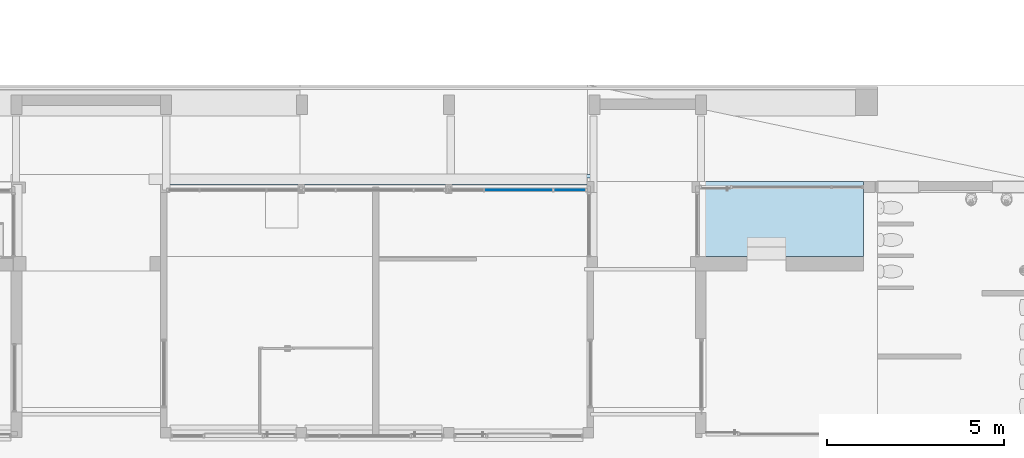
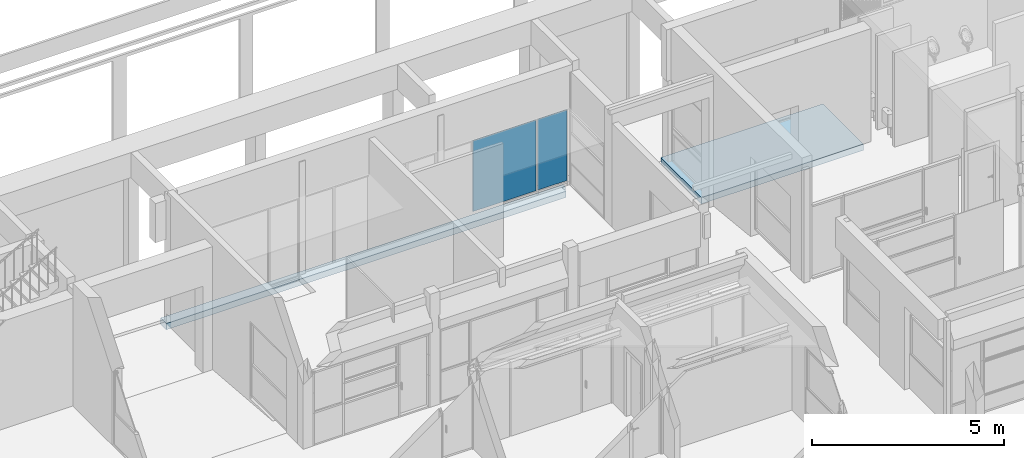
# One storey, part 43 of 117: 2 plates, 1 slab, 1 element without a shape of its own.
"""IFC4 building model written with IfcOpenShell, lengths in metres."""

import ifcopenshell
import ifcopenshell.guid

model = None  # the IFC model being written
_history = None  # IfcOwnerHistory: only IFC2X3 demands one
_inside = {}  # id of a spatial element -> (the spatial element, [elements in it])
_under = {}  # id of a project, library or spatial element -> (it, [spatial elements below it])
_declared = {}  # id of a project -> (the project, [libraries it declares])
_typed = {}  # id of a type object -> (the type object, [elements of that type])
_made_of = {}  # id of a material, layer set ... -> (it, [elements and type objects made of it])


def new_model(schema):
    """Start an empty IFC model of exactly this schema.

    Asked for "IFC4X3", IfcOpenShell would pick the latest addendum, in which some entities
    have other attributes; the version numbers below select the first issue.
    IFC2X3 requires an IfcOwnerHistory on every rooted entity: one is made here for all.
    """
    global model, _history
    if schema == "IFC4X3":
        model = ifcopenshell.file(schema_version=(4, 3, 0, 0))
    else:
        model = ifcopenshell.file(schema=schema)
    _inside.clear()
    _under.clear()
    _declared.clear()
    _typed.clear()
    _made_of.clear()
    _history = None
    if model.schema == "IFC2X3":
        org = make("IfcOrganization", Name="unknown")
        user = make(
            "IfcPersonAndOrganization",
            ThePerson=make("IfcPerson", FamilyName="unknown"),
            TheOrganization=org,
        )
        app = make(
            "IfcApplication",
            ApplicationDeveloper=org,
            Version="unknown",
            ApplicationFullName="unknown",
            ApplicationIdentifier="unknown",
        )
        _history = make(
            "IfcOwnerHistory",
            OwningUser=user,
            OwningApplication=app,
            ChangeAction="ADDED",
            CreationDate=0,
        )
    return model


def make(cls, **values):
    """One entity of the class cls with the attributes given. An attribute that is None is left unset."""
    return model.create_entity(
        cls, **{name: value for name, value in values.items() if value is not None}
    )


def entity(cls, *values):
    """Any entity or typed value of the class cls, its attributes in the order of the schema. None: left unset."""
    e = model.create_entity(cls)
    for i, value in enumerate(values):
        if value is not None:
            e[i] = value
    return e


def rooted(cls, **values):
    """An entity with a GlobalId (a new one), such as an element, a storey or a relation."""
    return make(cls, GlobalId=ifcopenshell.guid.new(), OwnerHistory=_history, **values)


def si_unit(unit_type, name, prefix=None):
    """IfcSIUnit, for example si_unit("LENGTHUNIT", "METRE", prefix="MILLI")."""
    return make("IfcSIUnit", UnitType=unit_type, Prefix=prefix, Name=name)


def converted_unit(unit_type, name, factor, base, dimensions=None, offset=None):
    """IfcConversionBasedUnit, such as the inch: factor (a typed value) times the base unit."""
    return make(
        "IfcConversionBasedUnit"
        if offset is None
        else "IfcConversionBasedUnitWithOffset",
        ConversionOffset=offset,
        Dimensions=None
        if dimensions is None
        else entity("IfcDimensionalExponents", *dimensions),
        UnitType=unit_type,
        Name=name,
        ConversionFactor=make(
            "IfcMeasureWithUnit", ValueComponent=factor, UnitComponent=base
        ),
    )


def derived_unit(unit_type, elements):
    """IfcDerivedUnit: a product of units, each with its exponent."""
    return make(
        "IfcDerivedUnit",
        Elements=[
            make("IfcDerivedUnitElement", Unit=unit, Exponent=power)
            for unit, power in elements
        ],
        UnitType=unit_type,
    )


def assignment(units):
    """IfcUnitAssignment: the units of a project."""
    return None if units is None else make("IfcUnitAssignment", Units=units)


def point(xyz):
    """IfcCartesianPoint."""
    return None if xyz is None else make("IfcCartesianPoint", Coordinates=xyz)


def direction(xyz):
    """IfcDirection."""
    return None if xyz is None else make("IfcDirection", DirectionRatios=xyz)


def frame(location, z_axis=None, x_axis=None):
    """IfcAxis2Placement3D, a coordinate frame: its origin and axes. An axis left out is left unset."""
    return make(
        "IfcAxis2Placement3D",
        Location=point(location),
        Axis=direction(z_axis),
        RefDirection=direction(x_axis),
    )


def origin():
    """The frame at (0, 0, 0) with its axes left unset."""
    return frame((0.0, 0.0, 0.0))


def place(relative_to, where):
    """IfcLocalPlacement: puts the frame where relative to a parent placement (None: the world)."""
    return make(
        "IfcLocalPlacement", PlacementRelTo=relative_to, RelativePlacement=where
    )


def context(
    kind, dimensions, precision=None, world=None, true_north=None, identifier=None
):
    """IfcGeometricRepresentationContext, for example the 3D "Model" context."""
    return make(
        "IfcGeometricRepresentationContext",
        ContextIdentifier=identifier,
        ContextType=kind,
        CoordinateSpaceDimension=dimensions,
        Precision=precision,
        WorldCoordinateSystem=world,
        TrueNorth=true_north,
    )


def subcontext(parent, identifier, kind, view, scale=None):
    """IfcGeometricRepresentationSubContext, for example "Body" below "Model"."""
    return make(
        "IfcGeometricRepresentationSubContext",
        ContextIdentifier=identifier,
        ContextType=kind,
        ParentContext=parent,
        TargetScale=scale,
        TargetView=view,
    )


def project(units=None, contexts=None):
    """IfcProject with its units and contexts."""
    return rooted(
        "IfcProject",
        Name="project",
        RepresentationContexts=contexts,
        UnitsInContext=assignment(units),
    )


def spatial(cls, under=None, at=None, **own):
    """A site, building, storey or space (cls), placed at a placement, below another one or the project."""
    s = rooted(cls, ObjectPlacement=at, **own)
    if under is not None:
        _under.setdefault(under.id(), (under, []))[1].append(s)
    return s


def point_list(points):
    """IfcCartesianPointList2D or 3D."""
    cls = (
        "IfcCartesianPointList2D" if len(points[0]) == 2 else "IfcCartesianPointList3D"
    )
    return make(cls, CoordList=points)


def indexed_curve(points, segments=None, self_intersect=None):
    """IfcIndexedPolyCurve: lines and arcs through numbered points (the first is 1)."""
    return make(
        "IfcIndexedPolyCurve",
        Points=point_list(points),
        Segments=segments,
        SelfIntersect=self_intersect,
    )


def outline(outer, holes=None, kind="AREA"):
    """IfcArbitraryClosedProfileDef: a profile drawn as a closed curve; with holes, ...WithVoids."""
    if holes is None:
        return make("IfcArbitraryClosedProfileDef", ProfileType=kind, OuterCurve=outer)
    return make(
        "IfcArbitraryProfileDefWithVoids",
        ProfileType=kind,
        OuterCurve=outer,
        InnerCurves=holes,
    )


def extrude(swept, where, along, depth):
    """IfcExtrudedAreaSolid: the profile swept, set in the frame where, extruded along a direction by depth."""
    return make(
        "IfcExtrudedAreaSolid",
        SweptArea=swept,
        Position=where,
        ExtrudedDirection=direction(along),
        Depth=depth,
    )


def shape(context_of_items, identifier, shape_type, items):
    """IfcShapeRepresentation: the items that make up one representation, for example the "Body"."""
    return make(
        "IfcShapeRepresentation",
        ContextOfItems=context_of_items,
        RepresentationIdentifier=identifier,
        RepresentationType=shape_type,
        Items=items,
    )


def source(mapping_origin, context_of_items, identifier, shape_type, items):
    """IfcRepresentationMap: a shape defined once, which mapped items show again and again."""
    return make(
        "IfcRepresentationMap",
        MappingOrigin=mapping_origin,
        MappedRepresentation=shape(context_of_items, identifier, shape_type, items),
    )


def transform(
    local_origin,
    x_axis=None,
    y_axis=None,
    z_axis=None,
    scale=None,
    scale2=None,
    scale3=None,
    uniform=True,
):
    """IfcCartesianTransformationOperator3D, or its non-uniform kind. x_axis, y_axis, z_axis: its Axis1, 2, 3."""
    if uniform:
        return make(
            "IfcCartesianTransformationOperator3D",
            Axis1=direction(x_axis),
            Axis2=direction(y_axis),
            LocalOrigin=point(local_origin),
            Scale=scale,
            Axis3=direction(z_axis),
        )
    return make(
        "IfcCartesianTransformationOperator3DnonUniform",
        Axis1=direction(x_axis),
        Axis2=direction(y_axis),
        LocalOrigin=point(local_origin),
        Scale=scale,
        Axis3=direction(z_axis),
        Scale2=scale2,
        Scale3=scale3,
    )


def mapped(mapping_source, mapping_target):
    """IfcMappedItem: shows the shape of a source again, moved by a transform."""
    return make(
        "IfcMappedItem", MappingSource=mapping_source, MappingTarget=mapping_target
    )


def material(Name=None, Category=None):
    """IfcMaterial."""
    return make("IfcMaterial", Name=Name, Category=Category)


def made_of(thing, what):
    """Note that an element or type object is made of a material, layer set ...; save() writes the relation."""
    if what is not None:
        _made_of.setdefault(what.id(), (what, []))[1].append(thing)
    return thing


def type_object(cls, material=None, **own):
    """A type object (cls), such as IfcWallType, which elements share."""
    return made_of(rooted(cls, **own), material)


def type_shapes(of_type, sources):
    """Give a type object the sources (RepresentationMaps) that its elements show as mapped items."""
    of_type.RepresentationMaps = sources


def element(
    cls,
    number,
    at=None,
    inside=None,
    cuts=None,
    type_object=None,
    material=None,
    context=None,
    identifier="Body",
    shape_type=None,
    held_by="IfcProductDefinitionShape",
    body=None,
    shapes=None,
    **own,
):
    """One element of the class cls, such as IfcWall. Its Tag is "e" and its number.

    at: its placement. inside: the storey or other place that contains it. cuts: it is an
    opening in that element (IfcRelVoidsElement). A single representation is given by context,
    identifier, shape_type and body (its items); several are given by shapes. held_by: the class
    of the entity that holds the representations. save() writes the other relations.
    """
    e = rooted(cls, Tag="e%d" % number, ObjectPlacement=at, **own)
    if body is not None:
        shapes = [shape(context, identifier, shape_type, body)]
    if shapes is not None:
        e.Representation = make(held_by, Representations=shapes)
    if inside is not None:
        _inside.setdefault(inside.id(), (inside, []))[1].append(e)
    if cuts is not None:
        rooted(
            "IfcRelVoidsElement", RelatingBuildingElement=cuts, RelatedOpeningElement=e
        )
    if type_object is not None:
        _typed.setdefault(type_object.id(), (type_object, []))[1].append(e)
    return made_of(e, material)


def aggregate(whole, parts):
    """IfcRelAggregates: a whole, such as a stair, and the parts it consists of."""
    return rooted("IfcRelAggregates", RelatingObject=whole, RelatedObjects=parts)


def save(model, path):
    """Write the relations noted so far, then the file.

    IfcRelAggregates (storeys below a building ...), IfcRelContainedInSpatialStructure (elements
    in a storey), IfcRelDefinesByType, IfcRelAssociatesMaterial and IfcRelDeclares: one each for
    every whole, place, type object, material and project.
    """
    for whole, parts in _under.values():
        aggregate(whole, parts)
    for where, things in _inside.values():
        rooted(
            "IfcRelContainedInSpatialStructure",
            RelatedElements=things,
            RelatingStructure=where,
        )
    for kind, things in _typed.values():
        rooted("IfcRelDefinesByType", RelatedObjects=things, RelatingType=kind)
    for what, things in _made_of.values():
        rooted("IfcRelAssociatesMaterial", RelatedObjects=things, RelatingMaterial=what)
    for by, libraries in _declared.values():
        rooted("IfcRelDeclares", RelatingContext=by, RelatedDefinitions=libraries)
    model.write(path)


model = new_model("IFC4")

# Units and contexts
model_context = context("Model", 3, precision=1e-05, world=origin(), true_north=direction((6.123031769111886e-17, 1.0)))
body_context = subcontext(model_context, "Body", "Model", "MODEL_VIEW")
ifc_project = project(units=[si_unit("LENGTHUNIT", "METRE"), si_unit("AREAUNIT", "SQUARE_METRE"), si_unit("VOLUMEUNIT", "CUBIC_METRE"), converted_unit("PLANEANGLEUNIT", "DEGREE", entity("IfcRatioMeasure", 0.017453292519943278), si_unit("PLANEANGLEUNIT", "RADIAN"), dimensions=[0, 0, 0, 0, 0, 0, 0]), si_unit("MASSUNIT", "GRAM", prefix="KILO"), derived_unit("MASSDENSITYUNIT", [(si_unit("MASSUNIT", "GRAM", prefix="KILO"), 1), (si_unit("LENGTHUNIT", "METRE"), -3)]), derived_unit("MOMENTOFINERTIAUNIT", [(si_unit("LENGTHUNIT", "METRE"), 4)]), si_unit("TIMEUNIT", "SECOND"), si_unit("FREQUENCYUNIT", "HERTZ"), si_unit("THERMODYNAMICTEMPERATUREUNIT", "DEGREE_CELSIUS"), derived_unit("THERMALTRANSMITTANCEUNIT", [(si_unit("MASSUNIT", "GRAM", prefix="KILO"), 1), (si_unit("THERMODYNAMICTEMPERATUREUNIT", "KELVIN"), -1), (si_unit("TIMEUNIT", "SECOND"), -3)]), derived_unit("VOLUMETRICFLOWRATEUNIT", [(si_unit("LENGTHUNIT", "METRE"), 3), (si_unit("TIMEUNIT", "SECOND"), -1)]), derived_unit("MASSFLOWRATEUNIT", [(si_unit("MASSUNIT", "GRAM", prefix="KILO"), 1), (si_unit("TIMEUNIT", "SECOND"), -1)]), derived_unit("ROTATIONALFREQUENCYUNIT", [(si_unit("TIMEUNIT", "SECOND"), -1)]), si_unit("ELECTRICCURRENTUNIT", "AMPERE"), si_unit("ELECTRICVOLTAGEUNIT", "VOLT"), si_unit("POWERUNIT", "WATT"), si_unit("FORCEUNIT", "NEWTON", prefix="KILO"), si_unit("ILLUMINANCEUNIT", "LUX"), si_unit("LUMINOUSFLUXUNIT", "LUMEN"), si_unit("LUMINOUSINTENSITYUNIT", "CANDELA"), derived_unit("USERDEFINED", [(si_unit("MASSUNIT", "GRAM", prefix="KILO"), -1), (si_unit("LENGTHUNIT", "METRE"), -2), (si_unit("TIMEUNIT", "SECOND"), 3), (si_unit("LUMINOUSFLUXUNIT", "LUMEN"), 1)]), derived_unit("SOUNDPOWERUNIT", [(si_unit("MASSUNIT", "GRAM", prefix="KILO"), 1), (si_unit("LENGTHUNIT", "METRE"), 2), (si_unit("TIMEUNIT", "SECOND"), -3)]), derived_unit("SOUNDPRESSUREUNIT", [(si_unit("MASSUNIT", "GRAM", prefix="KILO"), 1), (si_unit("LENGTHUNIT", "METRE"), -1), (si_unit("TIMEUNIT", "SECOND"), -2)]), derived_unit("LINEARVELOCITYUNIT", [(si_unit("LENGTHUNIT", "METRE"), 1), (si_unit("TIMEUNIT", "SECOND"), -1)]), si_unit("PRESSUREUNIT", "PASCAL"), derived_unit("USERDEFINED", [(si_unit("LENGTHUNIT", "METRE"), -2), (si_unit("MASSUNIT", "GRAM", prefix="KILO"), 1), (si_unit("TIMEUNIT", "SECOND"), -2)]), derived_unit("LINEARFORCEUNIT", [(si_unit("MASSUNIT", "GRAM", prefix="KILO"), 1), (si_unit("LENGTHUNIT", "METRE"), 1), (si_unit("TIMEUNIT", "SECOND"), -2), (si_unit("LENGTHUNIT", "METRE"), -1)]), derived_unit("PLANARFORCEUNIT", [(si_unit("MASSUNIT", "GRAM", prefix="KILO"), 1), (si_unit("LENGTHUNIT", "METRE"), 1), (si_unit("TIMEUNIT", "SECOND"), -2), (si_unit("LENGTHUNIT", "METRE"), -2)])], contexts=[model_context])

# Site, building, storey
site_placement = place(None, origin())
site = spatial("IfcSite", under=ifc_project, at=site_placement, Name="Superficie", CompositionType="ELEMENT")
building_placement = place(site_placement, origin())
building = spatial("IfcBuilding", under=site, at=building_placement, CompositionType="ELEMENT")
storey_placement = place(building_placement, origin())
storey = spatial("IfcBuildingStorey", under=building, at=storey_placement, Name="Nivel 0", CompositionType="ELEMENT", Elevation=0.0)

# Curtain wall, plates
curtain_wall_type = type_object("IfcCurtainWallType", Name="Muro cortina:Muro cortina - simple", PredefinedType="NOTDEFINED")
curtain_wall_placement = place(storey_placement, origin())
curtain_wall = element("IfcCurtainWall", 1, at=curtain_wall_placement, inside=storey, type_object=curtain_wall_type, Name="Muro cortina:Muro cortina - simple", ObjectType="Muro cortina:Muro cortina - simple", PredefinedType="NOTDEFINED")
ifc_material_1 = material(Name="Cristal", Category="Vidrio")
plate_type_1 = type_object("IfcPlateType", Name="Panel de sistema:Acristalado", PredefinedType="CURTAIN_PANEL", material=ifc_material_1)
shared_shape_1 = source(origin(), body_context, "Body", "SweptSolid", [
    extrude(outline(indexed_curve([(-0.8119020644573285, -0.4399999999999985), (-0.6369020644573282, -0.4399999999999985), (1.4488041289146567, -0.4399999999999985), (1.4488041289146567, 0.4399999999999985), (-0.6369020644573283, 0.4399999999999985), (-0.8119020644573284, 0.4399999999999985), (-0.8119020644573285, -0.4399999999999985)], self_intersect=False)), frame((0.0, -0.01, 0.8119020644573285), z_axis=(0.0, 1.0, 0.0), x_axis=(0.0, 0.0, 1.0)), (0.0, 0.0, 1.0), 0.02),
])
type_shapes(plate_type_1, [shared_shape_1])
plate_1_placement = place(curtain_wall_placement, frame((12.30056831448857, 12.654548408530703, 0.129293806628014), z_axis=(0.0, 0.0, 1.0), x_axis=(-1.0, 0.0, 0.0)))
plate_1 = element("IfcPlate", 2, at=plate_1_placement, type_object=plate_type_1, material=ifc_material_1, Name="Panel de sistema:Acristalado", ObjectType="Panel de sistema:Acristalado", PredefinedType="CURTAIN_PANEL", context=body_context, shape_type="MappedRepresentation", body=[
    mapped(shared_shape_1, transform((0.0, 0.0, 0.0), scale=1.0)),
])
plate_type_2 = type_object("IfcPlateType", Name="Panel de sistema:Acristalado", PredefinedType="CURTAIN_PANEL", material=ifc_material_1)
shared_shape_2 = source(origin(), body_context, "Body", "SweptSolid", [
    extrude(outline(indexed_curve([(-0.8119020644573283, -0.952008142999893), (-0.6369020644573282, -0.952008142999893), (1.4488041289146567, -0.952008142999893), (1.4488041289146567, 0.952008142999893), (-0.6369020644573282, 0.952008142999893), (-0.8119020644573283, 0.952008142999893), (-0.8119020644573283, -0.952008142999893)], self_intersect=False)), frame((0.0, -0.01, 0.8119020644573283), z_axis=(0.0, 1.0, 0.0), x_axis=(0.0, 0.0, 1.0)), (0.0, 0.0, 1.0), 0.02),
])
type_shapes(plate_type_2, [shared_shape_2])
plate_2_placement = place(curtain_wall_placement, frame((10.858560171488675, 12.654548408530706, 0.129293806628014), z_axis=(0.0, 0.0, 1.0), x_axis=(-1.0, 0.0, 0.0)))
plate_2 = element("IfcPlate", 3, at=plate_2_placement, type_object=plate_type_2, material=ifc_material_1, Name="Panel de sistema:Acristalado", ObjectType="Panel de sistema:Acristalado", PredefinedType="CURTAIN_PANEL", context=body_context, shape_type="MappedRepresentation", body=[
    mapped(shared_shape_2, transform((0.0, 0.0, 0.0), scale=1.0)),
])
aggregate(curtain_wall, [plate_1, plate_2])

# Slab
ifc_material_2 = material(Name="Suelos por defecto", Category="Genérico")
slab_type = type_object("IfcSlabType", Name="Suelo:Por defecto - 20 cm 2", PredefinedType="FLOOR", material=ifc_material_2)
slab_placement = place(storey_placement, origin())
element("IfcSlab", 4, at=slab_placement, inside=storey, type_object=slab_type, material=ifc_material_2, Name="Suelo:Por defecto - 20 cm 2", ObjectType="Suelo:Por defecto - 20 cm 2", PredefinedType="FLOOR", context=body_context, shape_type="SweptSolid", body=[
    extrude(outline(indexed_curve([(-8.487899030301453, -0.18428571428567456), (3.5411172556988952, -0.18428571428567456), (3.5411172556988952, 0.010714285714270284), (3.6411172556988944, 0.010714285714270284), (3.641117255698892, 0.11571428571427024), (2.6113290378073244, 0.11571428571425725), (-8.487899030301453, 0.11571428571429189), (-8.487899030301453, -0.18428571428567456)], self_intersect=False)), frame((9.249451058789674, 12.976025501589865, -0.5190268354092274)), (0.0, 0.0, 1.0), 0.2),
    extrude(outline(indexed_curve([(-1.056859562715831, -2.440615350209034), (1.0568595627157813, -2.440615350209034), (1.056859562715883, 2.440615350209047), (-1.056859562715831, 2.4406153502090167), (-1.056859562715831, -2.440615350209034)], self_intersect=False)), frame((18.1461836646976, 11.827688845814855, -0.5190268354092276), z_axis=(0.0, 0.0, 1.0), x_axis=(0.0, -1.0, 0.0)), (0.0, 0.0, 1.0), 0.2),
])

save(model, "model.ifc")
